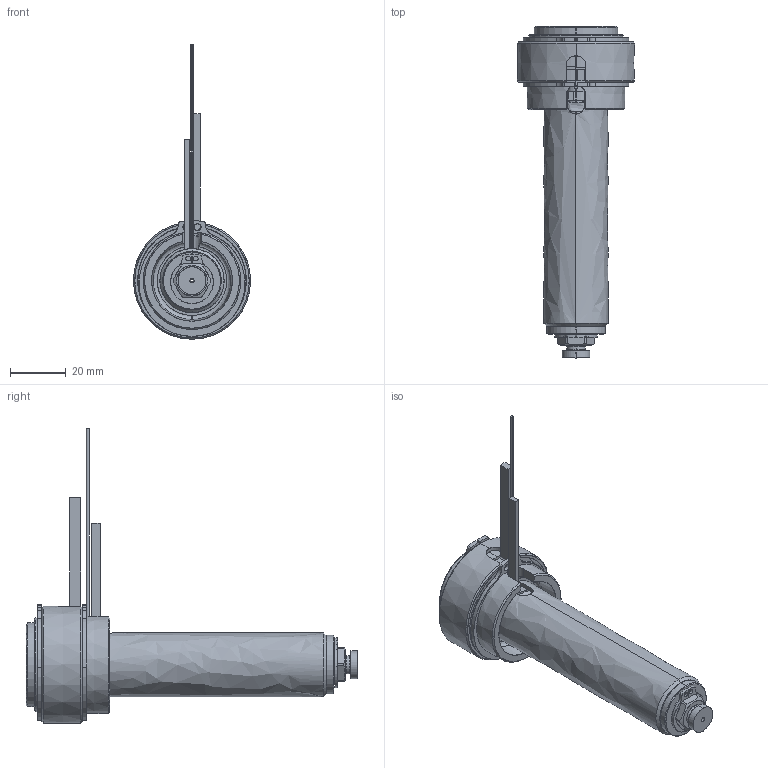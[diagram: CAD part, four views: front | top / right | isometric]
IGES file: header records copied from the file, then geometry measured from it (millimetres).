
Start section: SolidWorks IGES file using analytic representation for surfaces
Global section: file name: C:\Users\luca.EMPAD\Desktop\TEM\UGBE3502-M-A-3 [Ød-1.0 P-0 ØC-7.0].IGS; native system: SolidWorks 2012; preprocessor: SolidWorks 2012; author: luca; date: 120330.140355; units: millimetre
Bounding box: 42 x 119 x 105.6 mm (x, y, z)
Surface area: 27913.4 mm2 (no closed solid volume)
Topology: 0 solids, 0 shells, 181 faces, 3214 edges, 3214 vertices
Faces by surface type: revolution 114, bspline 67
